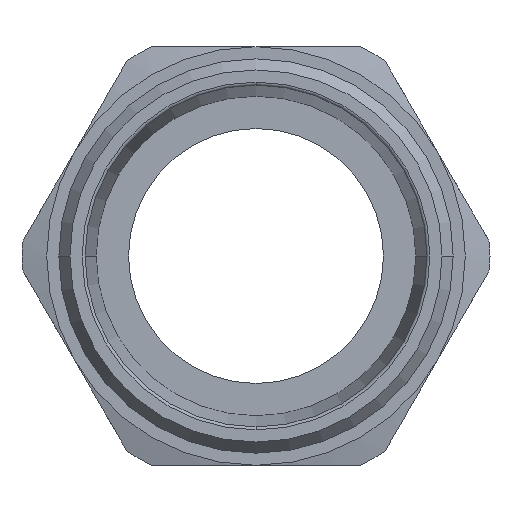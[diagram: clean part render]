
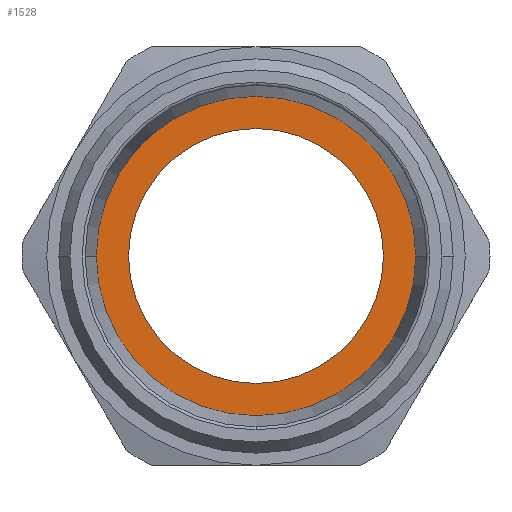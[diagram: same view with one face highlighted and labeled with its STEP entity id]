
A CAD part, left-side view. The second image highlights one B-rep face of the part: STEP entity #1528.
In plain terms, the highlighted planar face has unit normal (-1, 0, 0) as drawn and (0, 0, 1) by its records, which use the part's own axes.
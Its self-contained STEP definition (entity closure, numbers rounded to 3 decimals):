
#625=CARTESIAN_POINT('',(0.,-21.,10.3));
#626=VERTEX_POINT('',#625);
#642=CARTESIAN_POINT('',(0.,21.,10.3));
#643=VERTEX_POINT('',#642);
#650=CARTESIAN_POINT('',(0.,0.,10.3));
#651=DIRECTION('',(0.0,0.0,-1.0));
#652=DIRECTION('',(0.0,-1.0,0.0));
#653=AXIS2_PLACEMENT_3D('',#650,#651,#652);
#654=CIRCLE('',#653,21.0);
#655=EDGE_CURVE('',#643,#626,#654,.T.);
#1114=CARTESIAN_POINT('',(0.,16.75,10.3));
#1115=VERTEX_POINT('',#1114);
#1124=CARTESIAN_POINT('',(0.,-16.75,10.3));
#1125=VERTEX_POINT('',#1124);
#1126=CARTESIAN_POINT('',(0.,0.,10.3));
#1127=DIRECTION('',(0.0,0.0,-1.0));
#1128=DIRECTION('',(0.0,1.0,0.0));
#1129=AXIS2_PLACEMENT_3D('',#1126,#1127,#1128);
#1130=CIRCLE('',#1129,16.75);
#1131=EDGE_CURVE('',#1125,#1115,#1130,.T.);
#1215=CARTESIAN_POINT('',(0.,0.,10.3));
#1216=DIRECTION('',(0.0,0.0,-1.0));
#1217=DIRECTION('',(0.0,1.0,0.0));
#1218=AXIS2_PLACEMENT_3D('',#1215,#1216,#1217);
#1219=CIRCLE('',#1218,16.75);
#1220=EDGE_CURVE('',#1115,#1125,#1219,.T.);
#1509=CARTESIAN_POINT('',(0.,-10.5,10.3));
#1510=DIRECTION('',(0.0,0.0,1.0));
#1511=DIRECTION('',(-1.0,0.0,0.0));
#1512=AXIS2_PLACEMENT_3D('',#1509,#1510,#1511);
#1513=PLANE('',#1512);
#1514=CARTESIAN_POINT('',(0.,0.,10.3));
#1515=DIRECTION('',(0.0,0.0,-1.0));
#1516=DIRECTION('',(0.0,-1.0,0.0));
#1517=AXIS2_PLACEMENT_3D('',#1514,#1515,#1516);
#1518=CIRCLE('',#1517,21.0);
#1519=EDGE_CURVE('',#626,#643,#1518,.T.);
#1520=ORIENTED_EDGE('',*,*,#1519,.F.);
#1521=ORIENTED_EDGE('',*,*,#655,.F.);
#1522=EDGE_LOOP('',(#1520,#1521));
#1523=FACE_OUTER_BOUND('',#1522,.T.);
#1524=ORIENTED_EDGE('',*,*,#1131,.T.);
#1525=ORIENTED_EDGE('',*,*,#1220,.T.);
#1526=EDGE_LOOP('',(#1524,#1525));
#1527=FACE_BOUND('',#1526,.T.);
#1528=ADVANCED_FACE('',(#1523,#1527),#1513,.T.);
